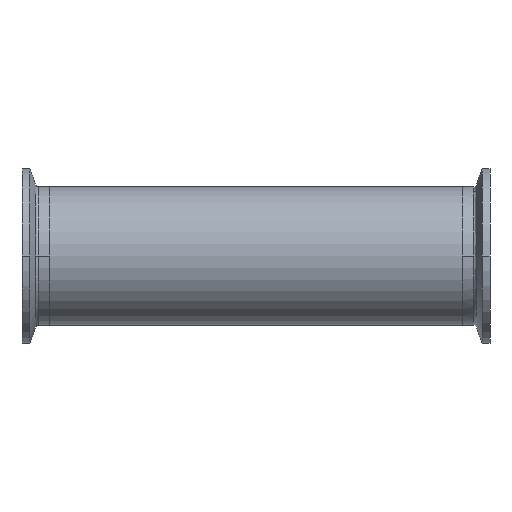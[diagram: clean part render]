
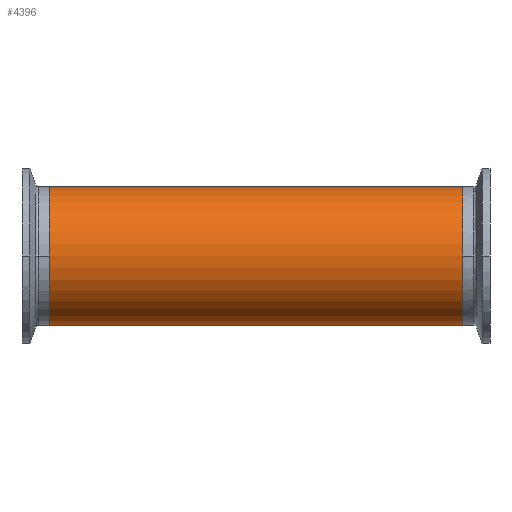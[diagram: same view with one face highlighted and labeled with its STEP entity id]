
A CAD part, front view. The second image highlights one B-rep face of the part: STEP entity #4396.
In plain terms, the highlighted cylindrical face has radius 25.4 mm (diameter 50.8 mm), a partial arc.
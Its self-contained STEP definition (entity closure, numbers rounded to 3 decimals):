
#41 = ORIENTED_EDGE ( 'NONE', *, *, #738, .F. ) ;
#373 = EDGE_LOOP ( 'NONE', ( #41, #1039, #3006, #3943 ) ) ;
#539 = CARTESIAN_POINT ( 'NONE',  ( 75.7, 0., -25.4 ) ) ;
#738 = EDGE_CURVE ( 'NONE', #2235, #1665, #2212, .T. ) ;
#1035 = EDGE_CURVE ( 'NONE', #2235, #1765, #1508, .T. ) ;
#1039 = ORIENTED_EDGE ( 'NONE', *, *, #1035, .T. ) ;
#1087 = EDGE_CURVE ( 'NONE', #1288, #1665, #2264, .T. ) ;
#1165 = DIRECTION ( 'NONE',  ( -1., 0., 0. ) ) ;
#1212 = VECTOR ( 'NONE', #1165, 1000. ) ;
#1288 = VERTEX_POINT ( 'NONE', #1476 ) ;
#1476 = CARTESIAN_POINT ( 'NONE',  ( -75.7, 0., 25.4 ) ) ;
#1508 = CIRCLE ( 'NONE', #1737, 25.4 ) ;
#1531 = CARTESIAN_POINT ( 'NONE',  ( 147.542, 0., -25.4 ) ) ;
#1665 = VERTEX_POINT ( 'NONE', #4235 ) ;
#1737 = AXIS2_PLACEMENT_3D ( 'NONE', #2094, #2075, #1898 ) ;
#1765 = VERTEX_POINT ( 'NONE', #2468 ) ;
#1824 = CARTESIAN_POINT ( 'NONE',  ( 147.542, 0., 0. ) ) ;
#1898 = DIRECTION ( 'NONE',  ( 0., 0., 1. ) ) ;
#2075 = DIRECTION ( 'NONE',  ( -1., 0., 0. ) ) ;
#2094 = CARTESIAN_POINT ( 'NONE',  ( 75.7, 0., 0. ) ) ;
#2212 = LINE ( 'NONE', #1531, #1212 ) ;
#2235 = VERTEX_POINT ( 'NONE', #539 ) ;
#2264 = CIRCLE ( 'NONE', #2482, 25.4 ) ;
#2468 = CARTESIAN_POINT ( 'NONE',  ( 75.7, 0., 25.4 ) ) ;
#2482 = AXIS2_PLACEMENT_3D ( 'NONE', #3636, #3620, #3603 ) ;
#2751 = DIRECTION ( 'NONE',  ( -1., 0., 0. ) ) ;
#3006 = ORIENTED_EDGE ( 'NONE', *, *, #4016, .T. ) ;
#3253 = DIRECTION ( 'NONE',  ( 0., 0., 1. ) ) ;
#3465 = CARTESIAN_POINT ( 'NONE',  ( 147.542, 0., 25.4 ) ) ;
#3603 = DIRECTION ( 'NONE',  ( 0., 0., 1. ) ) ;
#3620 = DIRECTION ( 'NONE',  ( 1., 0., 0. ) ) ;
#3636 = CARTESIAN_POINT ( 'NONE',  ( -75.7, 0., 0. ) ) ;
#3757 = CYLINDRICAL_SURFACE ( 'NONE', #3926, 25.4 ) ;
#3764 = VECTOR ( 'NONE', #2751, 1000. ) ;
#3926 = AXIS2_PLACEMENT_3D ( 'NONE', #1824, #4381, #3253 ) ;
#3943 = ORIENTED_EDGE ( 'NONE', *, *, #1087, .T. ) ;
#4016 = EDGE_CURVE ( 'NONE', #1765, #1288, #4761, .T. ) ;
#4235 = CARTESIAN_POINT ( 'NONE',  ( -75.7, 0., -25.4 ) ) ;
#4381 = DIRECTION ( 'NONE',  ( -1., 0., 0. ) ) ;
#4396 = ADVANCED_FACE ( 'NONE', ( #4754 ), #3757, .T. ) ;
#4754 = FACE_OUTER_BOUND ( 'NONE', #373, .T. ) ;
#4761 = LINE ( 'NONE', #3465, #3764 ) ;
